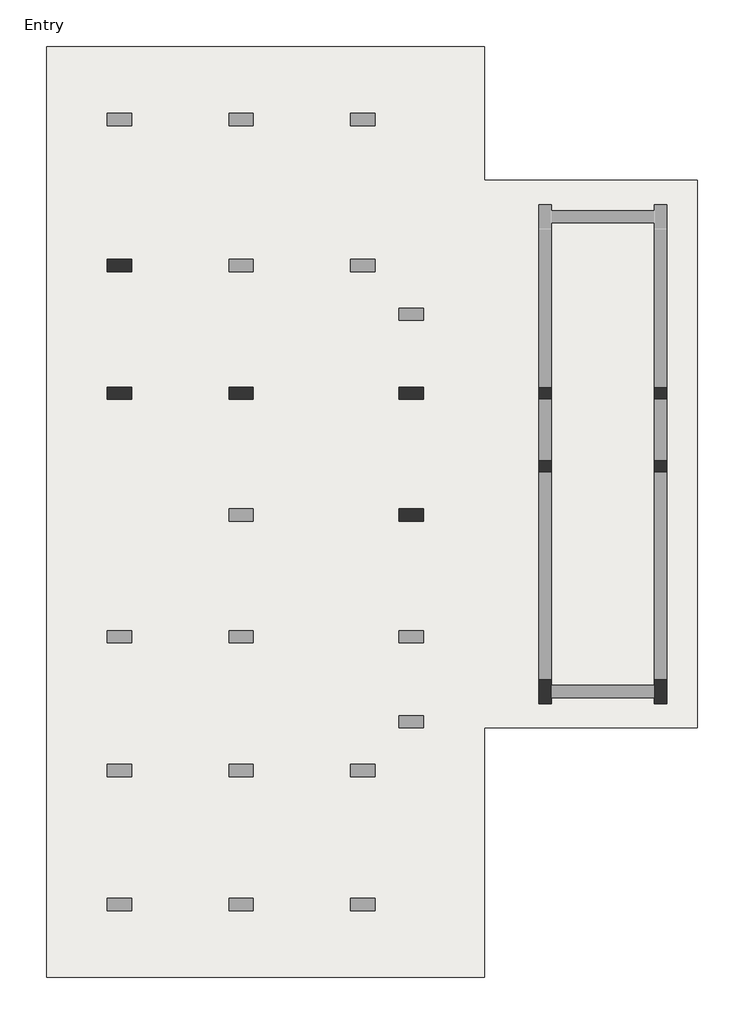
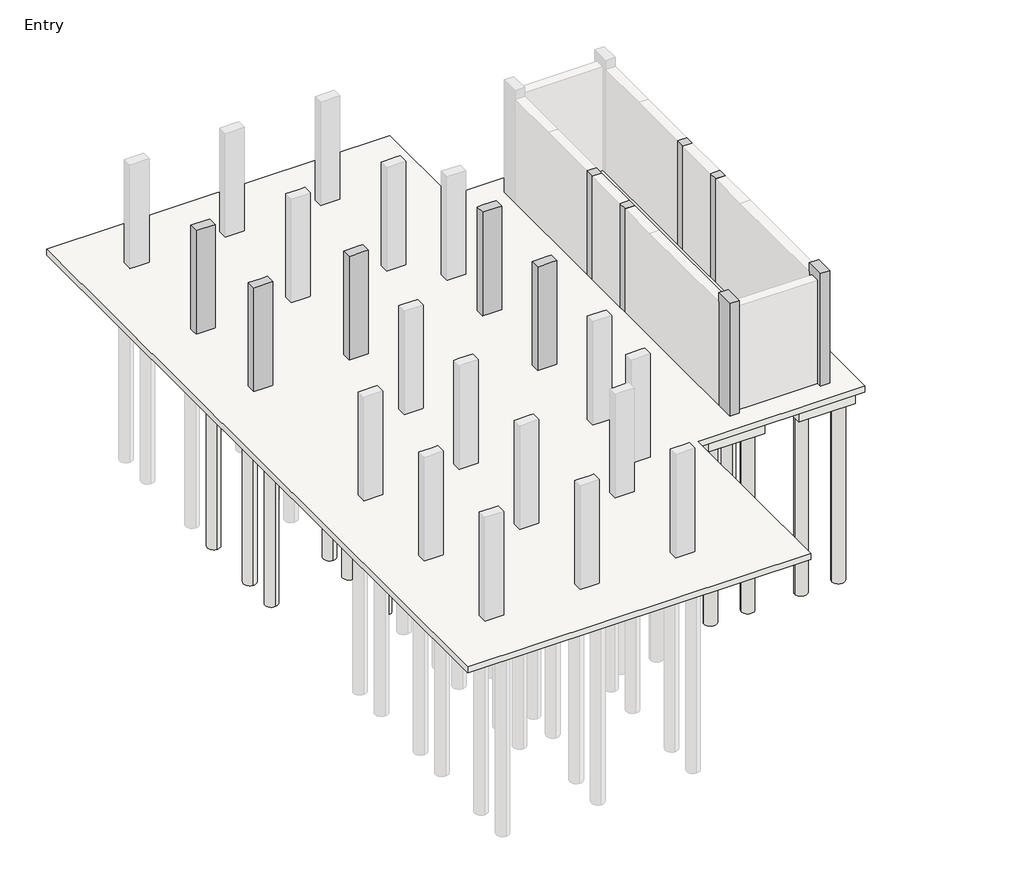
# One storey, part 2 of 3: 33 slabs, 13 columns, 4 footings.
"""IFC4 building model written with IfcOpenShell, lengths in millimetres."""

from ifc_helpers import new_model, si_unit, point, frame, frame_2d, origin, origin_with_axes, place, context, project, spatial, polyline, circle_curve, trimmed, segment, composite_curve, outline, extrude, faceted_brep, element, save

model = new_model("IFC4")

# Units and contexts
model_context = context("Model", 3, world=origin())
ifc_project = project(units=[si_unit("LENGTHUNIT", "METRE", prefix="MILLI")], contexts=[model_context])

# Site, building, storey
site = spatial("IfcSite", under=ifc_project)
building = spatial("IfcBuilding", under=site)
storey = spatial("IfcBuildingStorey", under=building, Name="Entry", Elevation=0.0)

# Columns
placement = place(None, origin())
element("IfcColumn", 1, ObjectType="Concrete-Rectangular-Column : 12 x 24", at=placement, inside=storey, context=model_context, shape_type="Brep", body=[
    faceted_brep([(-15677.5554735, 10989.3867088, 0.0), (-15067.9554735, 10989.3867088, 0.0), (-15067.9554735, 10684.5867088, 0.0), (-15677.5554735, 10684.5867088, 0.0), (-15677.5554735, 10989.3867088, 3505.2), (-15525.1554735, 10989.3867088, 3505.2), (-15220.3554735, 10989.3867088, 3505.2), (-15067.9554735, 10989.3867088, 3505.2), (-15067.9554735, 10989.3867088, 2895.6), (-15067.9554735, 10684.5867088, 3505.2), (-15067.9554735, 10684.5867088, 2895.6), (-15220.3554735, 10684.5867088, 3505.2), (-15525.1554735, 10684.5867088, 3505.2), (-15677.5554735, 10684.5867088, 3505.2)], [[[0, 1, 2, 3]], [[4, 5, 6, 7, 8, 1, 0]], [[7, 9, 10, 2, 1, 8]], [[9, 11, 12, 13, 3, 2, 10]], [[13, 4, 0, 3]], [[4, 13, 12, 11, 9, 7, 6, 5]]]),
])
element("IfcColumn", 2, ObjectType="Concrete-Rectangular-Column : 12 x 24", at=placement, inside=storey, context=model_context, shape_type="Brep", body=[
    faceted_brep([(-8362.3554735, 7788.9867088, 0.0), (-7752.7554735, 7788.9867088, 0.0), (-7752.7554735, 7484.1867088, 0.0), (-8362.3554735, 7484.1867088, 0.0), (-8362.3554735, 7788.9867088, 3505.2), (-8209.9554735, 7788.9867088, 3505.2), (-7905.1554735, 7788.9867088, 3505.2), (-7752.7554735, 7788.9867088, 3505.2), (-7752.7554735, 7788.9867088, 2895.6), (-8362.3554735, 7788.9867088, 2895.6), (-7752.7554735, 7484.1867088, 3505.2), (-7752.7554735, 7484.1867088, 2895.6), (-7905.1554735, 7484.1867088, 3505.2), (-8209.9554735, 7484.1867088, 3505.2), (-8362.3554735, 7484.1867088, 3505.2), (-8362.3554735, 7484.1867088, 2895.6)], [[[0, 1, 2, 3]], [[4, 5, 6, 7, 8, 1, 0, 9]], [[7, 10, 11, 2, 1, 8]], [[10, 12, 13, 14, 15, 3, 2, 11]], [[14, 4, 9, 0, 3, 15]], [[4, 14, 13, 12, 10, 7, 6, 5]]]),
])
element("IfcColumn", 3, ObjectType="Concrete-Rectangular-Column : 12 x 24", at=placement, inside=storey, context=model_context, shape_type="Brep", body=[
    faceted_brep([(-15677.5554735, 7788.9867088, 0.0), (-15067.9554735, 7788.9867088, 0.0), (-15067.9554735, 7484.1867088, 0.0), (-15677.5554735, 7484.1867088, 0.0), (-15677.5554735, 7788.9867088, 3505.2), (-15525.1554735, 7788.9867088, 3505.2), (-15220.3554735, 7788.9867088, 3505.2), (-15067.9554735, 7788.9867088, 3505.2), (-15067.9554735, 7788.9867088, 2895.6), (-15067.9554735, 7484.1867088, 3505.2), (-15067.9554735, 7484.1867088, 2895.6), (-15677.5554735, 7484.1867088, 3505.2)], [[[0, 1, 2, 3]], [[4, 5, 6, 7, 8, 1, 0]], [[7, 9, 10, 2, 1, 8]], [[9, 11, 3, 2, 10]], [[11, 4, 0, 3]], [[4, 11, 9, 7, 6, 5]]]),
])
element("IfcColumn", 4, ObjectType="Concrete-Rectangular-Column : 12 x 24", at=placement, inside=storey, context=model_context, shape_type="Brep", body=[
    faceted_brep([(-12629.5554735, 7788.9867088, 0.0), (-12019.9554735, 7788.9867088, 0.0), (-12019.9554735, 7484.1867088, 0.0), (-12629.5554735, 7484.1867088, 0.0), (-12629.5554735, 7788.9867088, 3505.2), (-12477.1554735, 7788.9867088, 3505.2), (-12172.3554735, 7788.9867088, 3505.2), (-12019.9554735, 7788.9867088, 3505.2), (-12019.9554735, 7788.9867088, 2895.6), (-12629.5554735, 7788.9867088, 2895.6), (-12019.9554735, 7484.1867088, 3505.2), (-12019.9554735, 7484.1867088, 2895.6), (-12172.3554735, 7484.1867088, 3505.2), (-12477.1554735, 7484.1867088, 3505.2), (-12629.5554735, 7484.1867088, 3505.2), (-12629.5554735, 7484.1867088, 2895.6)], [[[0, 1, 2, 3]], [[4, 5, 6, 7, 8, 1, 0, 9]], [[7, 10, 11, 2, 1, 8]], [[10, 12, 13, 14, 15, 3, 2, 11]], [[14, 4, 9, 0, 3, 15]], [[4, 14, 13, 12, 10, 7, 6, 5]]]),
])
element("IfcColumn", 5, ObjectType="Concrete-Rectangular-Column : 12 x 24", at=placement, inside=storey, context=model_context, shape_type="Brep", body=[
    faceted_brep([(-8362.3554735, 4740.9867088, 0.0), (-7752.7554735, 4740.9867088, 0.0), (-7752.7554735, 4436.1867088, 0.0), (-8362.3554735, 4436.1867088, 0.0), (-8362.3554735, 4740.9867088, 3505.2), (-8209.9554735, 4740.9867088, 3505.2), (-7905.1554735, 4740.9867088, 3505.2), (-7752.7554735, 4740.9867088, 3505.2), (-8362.3554735, 4740.9867088, 2895.6), (-7752.7554735, 4436.1867088, 3505.2), (-7905.1554735, 4436.1867088, 3505.2), (-8209.9554735, 4436.1867088, 3505.2), (-8362.3554735, 4436.1867088, 3505.2), (-8362.3554735, 4436.1867088, 2895.6)], [[[0, 1, 2, 3]], [[4, 5, 6, 7, 1, 0, 8]], [[7, 9, 2, 1]], [[9, 10, 11, 12, 13, 3, 2]], [[12, 4, 8, 0, 3, 13]], [[4, 12, 11, 10, 9, 7, 6, 5]]]),
])
element("IfcColumn", 6, ObjectType="Concrete-Rectangular-Column : 12 x 24", at=placement, inside=storey, context=model_context, shape_type="SweptSolid", body=[
    extrude(outline(polyline([(-4857.1554735, 7788.9867088), (-4552.3554735, 7788.9867088), (-4552.3554735, 7484.1867088), (-4857.1554735, 7484.1867088), (-4857.1554735, 7788.9867088)])), origin_with_axes(), (0.0, 0.0, 1.0), 3505.2),
])
element("IfcColumn", 7, ObjectType="Concrete-Rectangular-Column : 12 x 24", at=placement, inside=storey, context=model_context, shape_type="SweptSolid", body=[
    extrude(outline(polyline([(-4552.3554735, 5655.3867088), (-4857.1554735, 5655.3867088), (-4857.1554735, 5960.1867088), (-4552.3554735, 5960.1867088), (-4552.3554735, 5655.3867088)])), origin_with_axes(), (0.0, 0.0, 1.0), 3505.2),
])
element("IfcColumn", 8, ObjectType="Concrete-Rectangular-Column : 12 x 24", at=placement, inside=storey, context=model_context, shape_type="Brep", body=[
    faceted_brep([(-4552.3554735, 473.7867088, 0.0), (-4552.3554735, 321.3867088, 0.0), (-4552.3554735, 16.5867088, 0.0), (-4552.3554735, -135.8132912, 0.0), (-4857.1554735, -135.8132912, 0.0), (-4857.1554735, 473.7867088, 0.0), (-4552.3554735, 473.7867088, 3810.0), (-4552.3554735, -135.8132912, 3810.0), (-4552.3554735, 473.7867088, 3505.2), (-4857.1554735, -135.8132912, 3810.0), (-4857.1554735, 473.7867088, 3810.0), (-4857.1554735, 473.7867088, 3505.2)], [[[0, 1, 2, 3, 4, 5]], [[6, 7, 3, 2, 1, 0, 8]], [[7, 9, 4, 3]], [[9, 10, 11, 5, 4]], [[10, 6, 8, 0, 5, 11]], [[6, 10, 9, 7]]]),
])
element("IfcColumn", 9, ObjectType="Concrete-Rectangular-Column : 12 x 24", at=placement, inside=storey, context=model_context, shape_type="Brep", body=[
    faceted_brep([(-1656.7554735, 473.7867088, 0.0), (-1656.7554735, -135.8132912, 0.0), (-1961.5554735, -135.8132912, 0.0), (-1961.5554735, 16.5867088, 0.0), (-1961.5554735, 321.3867088, 0.0), (-1961.5554735, 473.7867088, 0.0), (-1656.7554735, 473.7867088, 3810.0), (-1656.7554735, -135.8132912, 3810.0), (-1656.7554735, 473.7867088, 3505.2), (-1961.5554735, -135.8132912, 3810.0), (-1961.5554735, 473.7867088, 3810.0), (-1961.5554735, 473.7867088, 3505.2)], [[[0, 1, 2, 3, 4, 5]], [[6, 7, 1, 0, 8]], [[7, 9, 2, 1]], [[9, 10, 11, 5, 4, 3, 2]], [[10, 6, 8, 0, 5, 11]], [[6, 10, 9, 7]]]),
])
element("IfcColumn", 10, ObjectType="Concrete-Rectangular-Column : 12 x 24", at=placement, inside=storey, context=model_context, shape_type="SweptSolid", body=[
    extrude(outline(polyline([(-1961.5554735, 7788.9867088), (-1656.7554735, 7788.9867088), (-1656.7554735, 7484.1867088), (-1961.5554735, 7484.1867088), (-1961.5554735, 7788.9867088)])), origin_with_axes(), (0.0, 0.0, 1.0), 3505.2),
])
element("IfcColumn", 11, ObjectType="Concrete-Rectangular-Column : 12 x 24", at=placement, inside=storey, context=model_context, shape_type="SweptSolid", body=[
    extrude(outline(polyline([(-1961.5554735, 5960.1867088), (-1656.7554735, 5960.1867088), (-1656.7554735, 5655.3867088), (-1961.5554735, 5655.3867088), (-1961.5554735, 5960.1867088)])), origin_with_axes(), (0.0, 0.0, 1.0), 3505.2),
])
element("IfcColumn", 12, ObjectType="Concrete-Rectangular-Column : 12 x 24", at=placement, inside=storey, context=model_context, shape_type="Brep", body=[
    faceted_brep([(-8362.3554735, 7788.9867088, 0.0), (-7752.7554735, 7788.9867088, 0.0), (-7752.7554735, 7484.1867088, 0.0), (-8362.3554735, 7484.1867088, 0.0), (-8362.3554735, 7788.9867088, 3505.2), (-8209.9554735, 7788.9867088, 3505.2), (-7905.1554735, 7788.9867088, 3505.2), (-7752.7554735, 7788.9867088, 3505.2), (-7752.7554735, 7788.9867088, 2895.6), (-8362.3554735, 7788.9867088, 2895.6), (-7752.7554735, 7484.1867088, 3505.2), (-7752.7554735, 7484.1867088, 2895.6), (-7905.1554735, 7484.1867088, 3505.2), (-8209.9554735, 7484.1867088, 3505.2), (-8362.3554735, 7484.1867088, 3505.2), (-8362.3554735, 7484.1867088, 2895.6)], [[[0, 1, 2, 3]], [[4, 5, 6, 7, 8, 1, 0, 9]], [[7, 10, 11, 2, 1, 8]], [[10, 12, 13, 14, 15, 3, 2, 11]], [[14, 4, 9, 0, 3, 15]], [[4, 14, 13, 12, 10, 7, 6, 5]]]),
])
element("IfcColumn", 13, ObjectType="Concrete-Rectangular-Column : 12 x 24", at=placement, inside=storey, context=model_context, shape_type="Brep", body=[
    faceted_brep([(-12629.5554735, 7788.9867088, 0.0), (-12019.9554735, 7788.9867088, 0.0), (-12019.9554735, 7484.1867088, 0.0), (-12629.5554735, 7484.1867088, 0.0), (-12629.5554735, 7788.9867088, 3505.2), (-12477.1554735, 7788.9867088, 3505.2), (-12172.3554735, 7788.9867088, 3505.2), (-12019.9554735, 7788.9867088, 3505.2), (-12019.9554735, 7788.9867088, 2895.6), (-12629.5554735, 7788.9867088, 2895.6), (-12019.9554735, 7484.1867088, 3505.2), (-12019.9554735, 7484.1867088, 2895.6), (-12172.3554735, 7484.1867088, 3505.2), (-12477.1554735, 7484.1867088, 3505.2), (-12629.5554735, 7484.1867088, 3505.2), (-12629.5554735, 7484.1867088, 2895.6)], [[[0, 1, 2, 3]], [[4, 5, 6, 7, 8, 1, 0, 9]], [[7, 10, 11, 2, 1, 8]], [[10, 12, 13, 14, 15, 3, 2, 11]], [[14, 4, 9, 0, 3, 15]], [[4, 14, 13, 12, 10, 7, 6, 5]]]),
])

# Footings
element("IfcFooting", 14, ObjectType="Bearing Footing - 36\" x 12\"", at=placement, inside=storey, context=model_context, shape_type="Brep", body=[
    faceted_brep([(-1351.9554735, 5655.3867088, -304.8), (-1402.7554735, 5655.3867088, -304.8), (-1402.7554735, 5655.3867088, -203.2), (-1351.9554735, 5655.3867088, -203.2), (-2215.5554735, 5655.3867088, -304.8), (-2266.3554735, 5655.3867088, -304.8), (-2266.3554735, 5655.3867088, -203.2), (-2215.5554735, 5655.3867088, -203.2), (-2266.3554735, 626.1867088, -304.8), (-2266.3554735, 575.3867088, -304.8), (-2266.3554735, 575.3867088, -203.2), (-2266.3554735, 626.1867088, -203.2), (-1351.9554735, 575.3867088, -304.8), (-2215.5554735, 4906.0867088, -304.8), (-1402.7554735, 4906.0867088, -304.8), (-1351.9554735, 575.3867088, -203.2), (-1402.7554735, 4906.0867088, -203.2), (-2215.5554735, 4906.0867088, -203.2)], [[[0, 1, 2, 3]], [[4, 5, 6, 7]], [[5, 8, 9, 10, 11, 6]], [[1, 0, 12, 9, 8, 5, 4, 13, 14]], [[12, 0, 3, 15]], [[7, 6, 11, 10, 15, 3, 2, 16, 17]], [[1, 14, 16, 2]], [[13, 4, 7, 17]], [[14, 13, 17, 16]], [[9, 12, 15, 10]]]),
])
element("IfcFooting", 15, ObjectType="Bearing Footing - 36\" x 12\"", at=placement, inside=storey, context=model_context, shape_type="Brep", body=[
    faceted_brep([(-4552.3554735, -237.4132912, -304.8), (-4552.3554735, -288.2132912, -304.8), (-4552.3554735, -288.2132912, -203.2), (-4552.3554735, -237.4132912, -203.2), (-4552.3554735, 626.1867088, -304.8), (-4552.3554735, 575.3867088, -304.8), (-4552.3554735, 575.3867088, -203.2), (-4552.3554735, 626.1867088, -203.2), (-1961.5554735, -288.2132912, -304.8), (-1961.5554735, -237.4132912, -304.8), (-1961.5554735, -237.4132912, -203.2), (-1961.5554735, -288.2132912, -203.2), (-2266.3554735, 626.1867088, -304.8), (-4247.5554735, 626.1867088, -304.8), (-4247.5554735, 626.1867088, -203.2), (-2266.3554735, 626.1867088, -203.2), (-3803.0554735, -237.4132912, -304.8), (-3803.0554735, 575.3867088, -304.8), (-2266.3554735, 575.3867088, -304.8), (-2710.8554735, 575.3867088, -304.8), (-2710.8554735, -237.4132912, -304.8), (-2266.3554735, 575.3867088, -203.2), (-3803.0554735, 575.3867088, -203.2), (-3803.0554735, -237.4132912, -203.2), (-2710.8554735, -237.4132912, -203.2), (-2710.8554735, 575.3867088, -203.2)], [[[0, 1, 2, 3]], [[4, 5, 6, 7]], [[8, 9, 10, 11]], [[12, 13, 4, 7, 14, 15]], [[8, 1, 0, 16, 17, 5, 4, 13, 12, 18, 19, 20, 9]], [[1, 8, 11, 2]], [[18, 12, 15, 21]], [[7, 6, 22, 23, 3, 2, 11, 10, 24, 25, 21, 15, 14]], [[5, 17, 22, 6]], [[16, 0, 3, 23]], [[17, 16, 23, 22]], [[19, 18, 21, 25]], [[20, 19, 25, 24]], [[9, 20, 24, 10]]]),
])
element("IfcFooting", 16, ObjectType="Bearing Footing - 36\" x 12\"", at=placement, inside=storey, context=model_context, shape_type="SweptSolid", body=[
    extrude(outline(polyline([(-4298.3554735, 5655.3867088), (-4247.5554735, 5655.3867088), (-4247.5554735, 626.1867088), (-4552.3554735, 626.1867088), (-4552.3554735, 575.3867088), (-5161.9554735, 575.3867088), (-5161.9554735, 5655.3867088), (-5111.1554735, 5655.3867088), (-5111.1554735, 4906.0867088), (-4298.3554735, 4906.0867088), (-4298.3554735, 5655.3867088)])), frame((0.0, 0.0, -304.8), z_axis=(0.0, 0.0, 1.0), x_axis=(1.0, 0.0, 0.0)), (0.0, 0.0, 1.0), 101.6),
])
element("IfcFooting", 17, ObjectType="Bearing Footing - 36\" x 12\"", at=placement, inside=storey, context=model_context, shape_type="SweptSolid", body=[
    extrude(outline(polyline([(-1351.9554735, 7484.1867088), (-1351.9554735, 5960.1867088), (-1402.7554735, 5960.1867088), (-1402.7554735, 6709.4867088), (-2215.5554735, 6709.4867088), (-2215.5554735, 5960.1867088), (-2266.3554735, 5960.1867088), (-2266.3554735, 7484.1867088), (-2215.5554735, 7484.1867088), (-2215.5554735, 6734.8867088), (-1402.7554735, 6734.8867088), (-1402.7554735, 7484.1867088), (-1351.9554735, 7484.1867088)])), frame((0.0, 0.0, -304.8), z_axis=(0.0, 0.0, 1.0), x_axis=(1.0, 0.0, 0.0)), (0.0, 0.0, 1.0), 101.6),
])

# Slabs
element("IfcSlab", 18, ObjectType="8\" Foundation Slab", at=placement, inside=storey, context=model_context, shape_type="SweptSolid", body=[
    extrude(outline(polyline([(-6228.7554735, 16323.3867088), (-6228.7554735, 12970.5867088), (-894.7554735, 12970.5867088), (-894.7554735, -745.4132912), (-6228.7554735, -745.4132912), (-6228.7554735, -6993.8132912), (-17201.5554735, -6993.8132912), (-17201.5554735, 16323.3867088), (-6228.7554735, 16323.3867088)])), frame((0.0, 0.0, -203.2), z_axis=(0.0, 0.0, 1.0), x_axis=(1.0, 0.0, 0.0)), (0.0, 0.0, 1.0), 203.2),
])
element("IfcSlab", 19, ObjectType="Pile Cap-2 Pile : 31\"x61\"x35\"", at=placement, inside=storey, context=model_context, shape_type="SweptSolid", body=[
    extrude(outline(polyline([(-15779.1554735, 11738.6867088), (-14966.3554735, 11738.6867088), (-14966.3554735, 9935.2867088), (-15779.1554735, 9935.2867088), (-15779.1554735, 11738.6867088)])), frame((0.0, 0.0, -889.0), z_axis=(0.0, 0.0, 1.0), x_axis=(1.0, 0.0, 0.0)), (0.0, 0.0, 1.0), 685.8),
])
element("IfcSlab", 20, ObjectType="Pile Cap-2 Pile : 31\"x61\"x35\"", at=placement, inside=storey, context=model_context, shape_type="SweptSolid", body=[
    extrude(outline(polyline([(-15779.1554735, 8538.2867088), (-14966.3554735, 8538.2867088), (-14966.3554735, 6734.8867088), (-15779.1554735, 6734.8867088), (-15779.1554735, 8538.2867088)])), frame((0.0, 0.0, -889.0), z_axis=(0.0, 0.0, 1.0), x_axis=(1.0, 0.0, 0.0)), (0.0, 0.0, 1.0), 685.8),
])
element("IfcSlab", 21, ObjectType="Pile Cap-2 Pile : 31\"x61\"x35\"", at=placement, inside=storey, context=model_context, shape_type="SweptSolid", body=[
    extrude(outline(polyline([(-8463.9554735, 5490.2867088), (-7651.1554735, 5490.2867088), (-7651.1554735, 3686.8867088), (-8463.9554735, 3686.8867088), (-8463.9554735, 5490.2867088)])), frame((0.0, 0.0, -889.0), z_axis=(0.0, 0.0, 1.0), x_axis=(1.0, 0.0, 0.0)), (0.0, 0.0, 1.0), 685.8),
])
element("IfcSlab", 22, ObjectType="Pile Cap-2 Pile : 31\"x61\"x35\"", at=placement, inside=storey, context=model_context, shape_type="SweptSolid", body=[
    extrude(outline(polyline([(-8463.9554735, 8538.2867088), (-7651.1554735, 8538.2867088), (-7651.1554735, 6734.8867088), (-8463.9554735, 6734.8867088), (-8463.9554735, 8538.2867088)])), frame((0.0, 0.0, -889.0), z_axis=(0.0, 0.0, 1.0), x_axis=(1.0, 0.0, 0.0)), (0.0, 0.0, 1.0), 685.8),
])
element("IfcSlab", 23, ObjectType="Pile Cap-2 Pile : 31\"x61\"x35\"", at=placement, inside=storey, context=model_context, shape_type="Brep", body=[
    faceted_brep([(-5111.1554735, 8538.2867088, -889.0), (-4298.3554735, 8538.2867088, -889.0), (-4298.3554735, 6734.8867088, -889.0), (-5111.1554735, 6734.8867088, -889.0), (-5111.1554735, 6734.8867088, -203.2), (-5111.1554735, 7788.9867088, -203.2), (-5111.1554735, 8538.2867088, -203.2), (-5111.1554735, 8538.2867088, -304.8), (-4298.3554735, 6734.8867088, -203.2), (-4298.3554735, 8538.2867088, -304.8), (-4298.3554735, 8538.2867088, -203.2), (-4298.3554735, 7788.9867088, -203.2)], [[[0, 1, 2, 3]], [[0, 3, 4, 5, 6, 7]], [[3, 2, 8, 4]], [[2, 1, 9, 10, 11, 8]], [[1, 0, 7, 6, 10, 9]], [[6, 5, 4, 8, 11, 10]]]),
])
element("IfcSlab", 24, ObjectType="Pile Cap-2 Pile : 31\"x61\"x35\"", at=placement, inside=storey, context=model_context, shape_type="Brep", body=[
    faceted_brep([(-2215.5554735, 8538.2867088, -889.0), (-1402.7554735, 8538.2867088, -889.0), (-1402.7554735, 6734.8867088, -889.0), (-2215.5554735, 6734.8867088, -889.0), (-2215.5554735, 6734.8867088, -304.8), (-2215.5554735, 6734.8867088, -203.2), (-2215.5554735, 7484.1867088, -203.2), (-2215.5554735, 7788.9867088, -203.2), (-2215.5554735, 8538.2867088, -203.2), (-2215.5554735, 8538.2867088, -304.8), (-1402.7554735, 6734.8867088, -304.8), (-1402.7554735, 6734.8867088, -203.2), (-1402.7554735, 8538.2867088, -304.8), (-1402.7554735, 8538.2867088, -203.2), (-1402.7554735, 7788.9867088, -203.2), (-1402.7554735, 7484.1867088, -203.2)], [[[0, 1, 2, 3]], [[0, 3, 4, 5, 6, 7, 8, 9]], [[3, 2, 10, 11, 5, 4]], [[2, 1, 12, 13, 14, 15, 11, 10]], [[1, 0, 9, 8, 13, 12]], [[8, 7, 6, 5, 11, 15, 14, 13]]]),
])
element("IfcSlab", 25, ObjectType="Pile Cap-2 Pile : 31\"x61\"x35\"", at=placement, inside=storey, context=model_context, shape_type="Brep", body=[
    faceted_brep([(-4298.3554735, 4906.0867088, -889.0), (-5111.1554735, 4906.0867088, -889.0), (-5111.1554735, 6709.4867088, -889.0), (-4298.3554735, 6709.4867088, -889.0), (-4298.3554735, 6709.4867088, -203.2), (-4298.3554735, 5655.3867088, -203.2), (-4298.3554735, 4906.0867088, -203.2), (-4298.3554735, 4906.0867088, -304.8), (-5111.1554735, 6709.4867088, -203.2), (-5111.1554735, 4906.0867088, -304.8), (-5111.1554735, 4906.0867088, -203.2), (-5111.1554735, 5655.3867088, -203.2)], [[[0, 1, 2, 3]], [[0, 3, 4, 5, 6, 7]], [[3, 2, 8, 4]], [[2, 1, 9, 10, 11, 8]], [[1, 0, 7, 6, 10, 9]], [[6, 5, 4, 8, 11, 10]]]),
])
element("IfcSlab", 26, ObjectType="Pile Cap-2 Pile : 31\"x61\"x35\"", at=placement, inside=storey, context=model_context, shape_type="Brep", body=[
    faceted_brep([(-1402.7554735, 4906.0867088, -889.0), (-2215.5554735, 4906.0867088, -889.0), (-2215.5554735, 6709.4867088, -889.0), (-1402.7554735, 6709.4867088, -889.0), (-1402.7554735, 6709.4867088, -304.8), (-1402.7554735, 6709.4867088, -203.2), (-1402.7554735, 5960.1867088, -203.2), (-1402.7554735, 5655.3867088, -203.2), (-1402.7554735, 4906.0867088, -203.2), (-1402.7554735, 4906.0867088, -304.8), (-2215.5554735, 6709.4867088, -304.8), (-2215.5554735, 6709.4867088, -203.2), (-2215.5554735, 4906.0867088, -304.8), (-2215.5554735, 4906.0867088, -203.2), (-2215.5554735, 5655.3867088, -203.2), (-2215.5554735, 5960.1867088, -203.2)], [[[0, 1, 2, 3]], [[0, 3, 4, 5, 6, 7, 8, 9]], [[3, 2, 10, 11, 5, 4]], [[2, 1, 12, 13, 14, 15, 11, 10]], [[1, 0, 9, 8, 13, 12]], [[8, 7, 6, 5, 11, 15, 14, 13]]]),
])
element("IfcSlab", 27, ObjectType="Pile Cap-2 Pile : 31\"x61\"x35\"", at=placement, inside=storey, context=model_context, shape_type="Brep", body=[
    faceted_brep([(-3803.0554735, 575.3867088, -889.0), (-3803.0554735, -237.4132912, -889.0), (-5606.4554735, -237.4132912, -889.0), (-5606.4554735, 575.3867088, -889.0), (-5606.4554735, 575.3867088, -203.2), (-5161.9554735, 575.3867088, -203.2), (-4552.3554735, 575.3867088, -203.2), (-3803.0554735, 575.3867088, -203.2), (-3803.0554735, 575.3867088, -304.8), (-5606.4554735, -237.4132912, -203.2), (-3803.0554735, -237.4132912, -304.8), (-3803.0554735, -237.4132912, -203.2), (-4552.3554735, -237.4132912, -203.2)], [[[0, 1, 2, 3]], [[0, 3, 4, 5, 6, 7, 8]], [[3, 2, 9, 4]], [[2, 1, 10, 11, 12, 9]], [[1, 0, 8, 7, 11, 10]], [[7, 6, 5, 4, 9, 12, 11]]]),
])
element("IfcSlab", 28, ObjectType="Pile Cap-2 Pile : 31\"x61\"x35\"", at=placement, inside=storey, context=model_context, shape_type="Brep", body=[
    faceted_brep([(-907.4554735, 575.3867088, -889.0), (-907.4554735, -237.4132912, -889.0), (-2710.8554735, -237.4132912, -889.0), (-2710.8554735, 575.3867088, -889.0), (-2710.8554735, 575.3867088, -304.8), (-2710.8554735, 575.3867088, -203.2), (-2266.3554735, 575.3867088, -203.2), (-1351.9554735, 575.3867088, -203.2), (-907.4554735, 575.3867088, -203.2), (-2710.8554735, -237.4132912, -304.8), (-2710.8554735, -237.4132912, -203.2), (-907.4554735, -237.4132912, -203.2), (-1961.5554735, -237.4132912, -203.2)], [[[0, 1, 2, 3]], [[0, 3, 4, 5, 6, 7, 8]], [[3, 2, 9, 10, 5, 4]], [[2, 1, 11, 12, 10, 9]], [[1, 0, 8, 11]], [[8, 7, 6, 5, 10, 12, 11]]]),
])
element("IfcSlab", 29, ObjectType="Pile Cap-4 Pile : 72\"x72\"x35\"", at=placement, inside=storey, context=model_context, shape_type="SweptSolid", body=[
    extrude(outline(polyline([(-13239.1554735, 8550.9867088), (-11410.3554735, 8550.9867088), (-11410.3554735, 6722.1867088), (-13239.1554735, 6722.1867088), (-13239.1554735, 8550.9867088)])), frame((0.0, 0.0, -889.0), z_axis=(0.0, 0.0, 1.0), x_axis=(1.0, 0.0, 0.0)), (0.0, 0.0, 1.0), 685.8),
])
element("IfcSlab", 30, ObjectType="Pile-Steel Pipe : 16\" Diameter", at=placement, inside=storey, context=model_context, shape_type="SweptSolid", body=[
    extrude(outline(composite_curve([segment(trimmed(circle_curve(frame_2d((-12858.1554735, 7103.1867088)), 203.2), [point((-12858.1554735, 6899.9867088))], [point((-12858.1554735, 7306.3867088))], False, "CARTESIAN"), True, "CONTINUOUS"), segment(trimmed(circle_curve(frame_2d((-12858.1554735, 7103.1867088)), 203.2), [point((-12858.1554735, 7306.3867088))], [point((-12858.1554735, 6899.9867088))], False, "CARTESIAN"), True, "CONTINUOUS")], self_intersect=False)), frame((0.0, 0.0, -6985.0), z_axis=(0.0, 0.0, 1.0), x_axis=(1.0, 0.0, 0.0)), (0.0, 0.0, 1.0), 6096.0),
])
element("IfcSlab", 31, ObjectType="Pile-Steel Pipe : 16\" Diameter", at=placement, inside=storey, context=model_context, shape_type="SweptSolid", body=[
    extrude(outline(composite_curve([segment(trimmed(circle_curve(frame_2d((-11791.3554735, 7103.1867088)), 203.2), [point((-11791.3554735, 6899.9867088))], [point((-11791.3554735, 7306.3867088))], False, "CARTESIAN"), True, "CONTINUOUS"), segment(trimmed(circle_curve(frame_2d((-11791.3554735, 7103.1867088)), 203.2), [point((-11791.3554735, 7306.3867088))], [point((-11791.3554735, 6899.9867088))], False, "CARTESIAN"), True, "CONTINUOUS")], self_intersect=False)), frame((0.0, 0.0, -6985.0), z_axis=(0.0, 0.0, 1.0), x_axis=(1.0, 0.0, 0.0)), (0.0, 0.0, 1.0), 6096.0),
])
element("IfcSlab", 32, ObjectType="Pile-Steel Pipe : 16\" Diameter", at=placement, inside=storey, context=model_context, shape_type="SweptSolid", body=[
    extrude(outline(composite_curve([segment(trimmed(circle_curve(frame_2d((-12858.1554735, 8169.9867088)), 203.2), [point((-12858.1554735, 7966.7867088))], [point((-12858.1554735, 8373.1867088))], False, "CARTESIAN"), True, "CONTINUOUS"), segment(trimmed(circle_curve(frame_2d((-12858.1554735, 8169.9867088)), 203.2), [point((-12858.1554735, 8373.1867088))], [point((-12858.1554735, 7966.7867088))], False, "CARTESIAN"), True, "CONTINUOUS")], self_intersect=False)), frame((0.0, 0.0, -6985.0), z_axis=(0.0, 0.0, 1.0), x_axis=(1.0, 0.0, 0.0)), (0.0, 0.0, 1.0), 6096.0),
])
element("IfcSlab", 33, ObjectType="Pile-Steel Pipe : 16\" Diameter", at=placement, inside=storey, context=model_context, shape_type="SweptSolid", body=[
    extrude(outline(composite_curve([segment(trimmed(circle_curve(frame_2d((-11791.3554735, 4055.1867088)), 203.2), [point((-11791.3554735, 3851.9867088))], [point((-11791.3554735, 4258.3867088))], False, "CARTESIAN"), True, "CONTINUOUS"), segment(trimmed(circle_curve(frame_2d((-11791.3554735, 4055.1867088)), 203.2), [point((-11791.3554735, 4258.3867088))], [point((-11791.3554735, 3851.9867088))], False, "CARTESIAN"), True, "CONTINUOUS")], self_intersect=False)), frame((0.0, 0.0, -6985.0), z_axis=(0.0, 0.0, 1.0), x_axis=(1.0, 0.0, 0.0)), (0.0, 0.0, 1.0), 6096.0),
])
element("IfcSlab", 34, ObjectType="Pile-Steel Pipe : 16\" Diameter", at=placement, inside=storey, context=model_context, shape_type="SweptSolid", body=[
    extrude(outline(composite_curve([segment(trimmed(circle_curve(frame_2d((-11791.3554735, 5121.9867088)), 203.2), [point((-11791.3554735, 4918.7867088))], [point((-11791.3554735, 5325.1867088))], False, "CARTESIAN"), True, "CONTINUOUS"), segment(trimmed(circle_curve(frame_2d((-11791.3554735, 5121.9867088)), 203.2), [point((-11791.3554735, 5325.1867088))], [point((-11791.3554735, 4918.7867088))], False, "CARTESIAN"), True, "CONTINUOUS")], self_intersect=False)), frame((0.0, 0.0, -6985.0), z_axis=(0.0, 0.0, 1.0), x_axis=(1.0, 0.0, 0.0)), (0.0, 0.0, 1.0), 6096.0),
])
element("IfcSlab", 35, ObjectType="Pile-Steel Pipe : 16\" Diameter", at=placement, inside=storey, context=model_context, shape_type="SweptSolid", body=[
    extrude(outline(composite_curve([segment(trimmed(circle_curve(frame_2d((-12858.1554735, 5121.9867088)), 203.2), [point((-12858.1554735, 4918.7867088))], [point((-12858.1554735, 5325.1867088))], False, "CARTESIAN"), True, "CONTINUOUS"), segment(trimmed(circle_curve(frame_2d((-12858.1554735, 5121.9867088)), 203.2), [point((-12858.1554735, 5325.1867088))], [point((-12858.1554735, 4918.7867088))], False, "CARTESIAN"), True, "CONTINUOUS")], self_intersect=False)), frame((0.0, 0.0, -6985.0), z_axis=(0.0, 0.0, 1.0), x_axis=(1.0, 0.0, 0.0)), (0.0, 0.0, 1.0), 6096.0),
])
element("IfcSlab", 36, ObjectType="Pile-Steel Pipe : 16\" Diameter", at=placement, inside=storey, context=model_context, shape_type="SweptSolid", body=[
    extrude(outline(composite_curve([segment(trimmed(circle_curve(frame_2d((-15372.7554735, 10240.0867088)), 203.2), [point((-15372.7554735, 10036.8867088))], [point((-15372.7554735, 10443.2867088))], False, "CARTESIAN"), True, "CONTINUOUS"), segment(trimmed(circle_curve(frame_2d((-15372.7554735, 10240.0867088)), 203.2), [point((-15372.7554735, 10443.2867088))], [point((-15372.7554735, 10036.8867088))], False, "CARTESIAN"), True, "CONTINUOUS")], self_intersect=False)), frame((0.0, 0.0, -6985.0), z_axis=(0.0, 0.0, 1.0), x_axis=(1.0, 0.0, 0.0)), (0.0, 0.0, 1.0), 6096.0),
])
element("IfcSlab", 37, ObjectType="Pile-Steel Pipe : 16\" Diameter", at=placement, inside=storey, context=model_context, shape_type="SweptSolid", body=[
    extrude(outline(composite_curve([segment(trimmed(circle_curve(frame_2d((-15372.7554735, 8233.4867088)), 203.2), [point((-15372.7554735, 8030.2867088))], [point((-15372.7554735, 8436.6867088))], False, "CARTESIAN"), True, "CONTINUOUS"), segment(trimmed(circle_curve(frame_2d((-15372.7554735, 8233.4867088)), 203.2), [point((-15372.7554735, 8436.6867088))], [point((-15372.7554735, 8030.2867088))], False, "CARTESIAN"), True, "CONTINUOUS")], self_intersect=False)), frame((0.0, 0.0, -6985.0), z_axis=(0.0, 0.0, 1.0), x_axis=(1.0, 0.0, 0.0)), (0.0, 0.0, 1.0), 6096.0),
])
element("IfcSlab", 38, ObjectType="Pile-Steel Pipe : 16\" Diameter", at=placement, inside=storey, context=model_context, shape_type="SweptSolid", body=[
    extrude(outline(composite_curve([segment(trimmed(circle_curve(frame_2d((-15372.7554735, 7039.6867088)), 203.2), [point((-15372.7554735, 6836.4867088))], [point((-15372.7554735, 7242.8867088))], False, "CARTESIAN"), True, "CONTINUOUS"), segment(trimmed(circle_curve(frame_2d((-15372.7554735, 7039.6867088)), 203.2), [point((-15372.7554735, 7242.8867088))], [point((-15372.7554735, 6836.4867088))], False, "CARTESIAN"), True, "CONTINUOUS")], self_intersect=False)), frame((0.0, 0.0, -6985.0), z_axis=(0.0, 0.0, 1.0), x_axis=(1.0, 0.0, 0.0)), (0.0, 0.0, 1.0), 6096.0),
])
element("IfcSlab", 39, ObjectType="Pile-Steel Pipe : 16\" Diameter", at=placement, inside=storey, context=model_context, shape_type="SweptSolid", body=[
    extrude(outline(composite_curve([segment(trimmed(circle_curve(frame_2d((-8057.5554735, 5185.4867088)), 203.2), [point((-8057.5554735, 4982.2867088))], [point((-8057.5554735, 5388.6867088))], False, "CARTESIAN"), True, "CONTINUOUS"), segment(trimmed(circle_curve(frame_2d((-8057.5554735, 5185.4867088)), 203.2), [point((-8057.5554735, 5388.6867088))], [point((-8057.5554735, 4982.2867088))], False, "CARTESIAN"), True, "CONTINUOUS")], self_intersect=False)), frame((0.0, 0.0, -6985.0), z_axis=(0.0, 0.0, 1.0), x_axis=(1.0, 0.0, 0.0)), (0.0, 0.0, 1.0), 6096.0),
])
element("IfcSlab", 40, ObjectType="Pile-Steel Pipe : 16\" Diameter", at=placement, inside=storey, context=model_context, shape_type="SweptSolid", body=[
    extrude(outline(composite_curve([segment(trimmed(circle_curve(frame_2d((-8057.5554735, 7039.6867088)), 203.2), [point((-8057.5554735, 6836.4867088))], [point((-8057.5554735, 7242.8867088))], False, "CARTESIAN"), True, "CONTINUOUS"), segment(trimmed(circle_curve(frame_2d((-8057.5554735, 7039.6867088)), 203.2), [point((-8057.5554735, 7242.8867088))], [point((-8057.5554735, 6836.4867088))], False, "CARTESIAN"), True, "CONTINUOUS")], self_intersect=False)), frame((0.0, 0.0, -6985.0), z_axis=(0.0, 0.0, 1.0), x_axis=(1.0, 0.0, 0.0)), (0.0, 0.0, 1.0), 6096.0),
])
element("IfcSlab", 41, ObjectType="Pile-Steel Pipe : 16\" Diameter", at=placement, inside=storey, context=model_context, shape_type="SweptSolid", body=[
    extrude(outline(composite_curve([segment(trimmed(circle_curve(frame_2d((-4704.7554735, 7039.6867088)), 203.2), [point((-4704.7554735, 6836.4867088))], [point((-4704.7554735, 7242.8867088))], False, "CARTESIAN"), True, "CONTINUOUS"), segment(trimmed(circle_curve(frame_2d((-4704.7554735, 7039.6867088)), 203.2), [point((-4704.7554735, 7242.8867088))], [point((-4704.7554735, 6836.4867088))], False, "CARTESIAN"), True, "CONTINUOUS")], self_intersect=False)), frame((0.0, 0.0, -6985.0), z_axis=(0.0, 0.0, 1.0), x_axis=(1.0, 0.0, 0.0)), (0.0, 0.0, 1.0), 6096.0),
])
element("IfcSlab", 42, ObjectType="Pile-Steel Pipe : 16\" Diameter", at=placement, inside=storey, context=model_context, shape_type="SweptSolid", body=[
    extrude(outline(composite_curve([segment(trimmed(circle_curve(frame_2d((-1809.1554735, 7039.6867088)), 203.2), [point((-1809.1554735, 6836.4867088))], [point((-1809.1554735, 7242.8867088))], False, "CARTESIAN"), True, "CONTINUOUS"), segment(trimmed(circle_curve(frame_2d((-1809.1554735, 7039.6867088)), 203.2), [point((-1809.1554735, 7242.8867088))], [point((-1809.1554735, 6836.4867088))], False, "CARTESIAN"), True, "CONTINUOUS")], self_intersect=False)), frame((0.0, 0.0, -6985.0), z_axis=(0.0, 0.0, 1.0), x_axis=(1.0, 0.0, 0.0)), (0.0, 0.0, 1.0), 6096.0),
])
element("IfcSlab", 43, ObjectType="Pile-Steel Pipe : 16\" Diameter", at=placement, inside=storey, context=model_context, shape_type="SweptSolid", body=[
    extrude(outline(composite_curve([segment(trimmed(circle_curve(frame_2d((-4704.7554735, 5210.8867088)), 203.2), [point((-4704.7554735, 5414.0867088))], [point((-4704.7554735, 5007.6867088))], False, "CARTESIAN"), True, "CONTINUOUS"), segment(trimmed(circle_curve(frame_2d((-4704.7554735, 5210.8867088)), 203.2), [point((-4704.7554735, 5007.6867088))], [point((-4704.7554735, 5414.0867088))], False, "CARTESIAN"), True, "CONTINUOUS")], self_intersect=False)), frame((0.0, 0.0, -6985.0), z_axis=(0.0, 0.0, 1.0), x_axis=(1.0, 0.0, 0.0)), (0.0, 0.0, 1.0), 6096.0),
])
element("IfcSlab", 44, ObjectType="Pile-Steel Pipe : 16\" Diameter", at=placement, inside=storey, context=model_context, shape_type="SweptSolid", body=[
    extrude(outline(composite_curve([segment(trimmed(circle_curve(frame_2d((-4704.7554735, 6404.6867088)), 203.2), [point((-4704.7554735, 6607.8867088))], [point((-4704.7554735, 6201.4867088))], False, "CARTESIAN"), True, "CONTINUOUS"), segment(trimmed(circle_curve(frame_2d((-4704.7554735, 6404.6867088)), 203.2), [point((-4704.7554735, 6201.4867088))], [point((-4704.7554735, 6607.8867088))], False, "CARTESIAN"), True, "CONTINUOUS")], self_intersect=False)), frame((0.0, 0.0, -6985.0), z_axis=(0.0, 0.0, 1.0), x_axis=(1.0, 0.0, 0.0)), (0.0, 0.0, 1.0), 6096.0),
])
element("IfcSlab", 45, ObjectType="Pile-Steel Pipe : 16\" Diameter", at=placement, inside=storey, context=model_context, shape_type="SweptSolid", body=[
    extrude(outline(composite_curve([segment(trimmed(circle_curve(frame_2d((-1809.1554735, 5210.8867088)), 203.2), [point((-1809.1554735, 5414.0867088))], [point((-1809.1554735, 5007.6867088))], False, "CARTESIAN"), True, "CONTINUOUS"), segment(trimmed(circle_curve(frame_2d((-1809.1554735, 5210.8867088)), 203.2), [point((-1809.1554735, 5007.6867088))], [point((-1809.1554735, 5414.0867088))], False, "CARTESIAN"), True, "CONTINUOUS")], self_intersect=False)), frame((0.0, 0.0, -6985.0), z_axis=(0.0, 0.0, 1.0), x_axis=(1.0, 0.0, 0.0)), (0.0, 0.0, 1.0), 6096.0),
])
element("IfcSlab", 46, ObjectType="Pile-Steel Pipe : 16\" Diameter", at=placement, inside=storey, context=model_context, shape_type="SweptSolid", body=[
    extrude(outline(composite_curve([segment(trimmed(circle_curve(frame_2d((-1809.1554735, 6404.6867088)), 203.2), [point((-1809.1554735, 6607.8867088))], [point((-1809.1554735, 6201.4867088))], False, "CARTESIAN"), True, "CONTINUOUS"), segment(trimmed(circle_curve(frame_2d((-1809.1554735, 6404.6867088)), 203.2), [point((-1809.1554735, 6201.4867088))], [point((-1809.1554735, 6607.8867088))], False, "CARTESIAN"), True, "CONTINUOUS")], self_intersect=False)), frame((0.0, 0.0, -6985.0), z_axis=(0.0, 0.0, 1.0), x_axis=(1.0, 0.0, 0.0)), (0.0, 0.0, 1.0), 6096.0),
])
element("IfcSlab", 47, ObjectType="Pile-Steel Pipe : 16\" Diameter", at=placement, inside=storey, context=model_context, shape_type="SweptSolid", body=[
    extrude(outline(composite_curve([segment(trimmed(circle_curve(frame_2d((-4107.8554735, 168.9867088)), 203.2), [point((-4311.0554735, 168.9867088))], [point((-3904.6554735, 168.9867088))], False, "CARTESIAN"), True, "CONTINUOUS"), segment(trimmed(circle_curve(frame_2d((-4107.8554735, 168.9867088)), 203.2), [point((-3904.6554735, 168.9867088))], [point((-4311.0554735, 168.9867088))], False, "CARTESIAN"), True, "CONTINUOUS")], self_intersect=False)), frame((0.0, 0.0, -6985.0), z_axis=(0.0, 0.0, 1.0), x_axis=(1.0, 0.0, 0.0)), (0.0, 0.0, 1.0), 6096.0),
])
element("IfcSlab", 48, ObjectType="Pile-Steel Pipe : 16\" Diameter", at=placement, inside=storey, context=model_context, shape_type="SweptSolid", body=[
    extrude(outline(composite_curve([segment(trimmed(circle_curve(frame_2d((-5301.6554735, 168.9867088)), 203.2), [point((-5504.8554735, 168.9867088))], [point((-5098.4554735, 168.9867088))], False, "CARTESIAN"), True, "CONTINUOUS"), segment(trimmed(circle_curve(frame_2d((-5301.6554735, 168.9867088)), 203.2), [point((-5098.4554735, 168.9867088))], [point((-5504.8554735, 168.9867088))], False, "CARTESIAN"), True, "CONTINUOUS")], self_intersect=False)), frame((0.0, 0.0, -6985.0), z_axis=(0.0, 0.0, 1.0), x_axis=(1.0, 0.0, 0.0)), (0.0, 0.0, 1.0), 6096.0),
])
element("IfcSlab", 49, ObjectType="Pile-Steel Pipe : 16\" Diameter", at=placement, inside=storey, context=model_context, shape_type="SweptSolid", body=[
    extrude(outline(composite_curve([segment(trimmed(circle_curve(frame_2d((-1212.2554735, 168.9867088)), 203.2), [point((-1415.4554735, 168.9867088))], [point((-1009.0554735, 168.9867088))], False, "CARTESIAN"), True, "CONTINUOUS"), segment(trimmed(circle_curve(frame_2d((-1212.2554735, 168.9867088)), 203.2), [point((-1009.0554735, 168.9867088))], [point((-1415.4554735, 168.9867088))], False, "CARTESIAN"), True, "CONTINUOUS")], self_intersect=False)), frame((0.0, 0.0, -6985.0), z_axis=(0.0, 0.0, 1.0), x_axis=(1.0, 0.0, 0.0)), (0.0, 0.0, 1.0), 6096.0),
])
element("IfcSlab", 50, ObjectType="Pile-Steel Pipe : 16\" Diameter", at=placement, inside=storey, context=model_context, shape_type="SweptSolid", body=[
    extrude(outline(composite_curve([segment(trimmed(circle_curve(frame_2d((-2406.0554735, 168.9867088)), 203.2), [point((-2609.2554735, 168.9867088))], [point((-2202.8554735, 168.9867088))], False, "CARTESIAN"), True, "CONTINUOUS"), segment(trimmed(circle_curve(frame_2d((-2406.0554735, 168.9867088)), 203.2), [point((-2202.8554735, 168.9867088))], [point((-2609.2554735, 168.9867088))], False, "CARTESIAN"), True, "CONTINUOUS")], self_intersect=False)), frame((0.0, 0.0, -6985.0), z_axis=(0.0, 0.0, 1.0), x_axis=(1.0, 0.0, 0.0)), (0.0, 0.0, 1.0), 6096.0),
])

save(model, "model.ifc")
